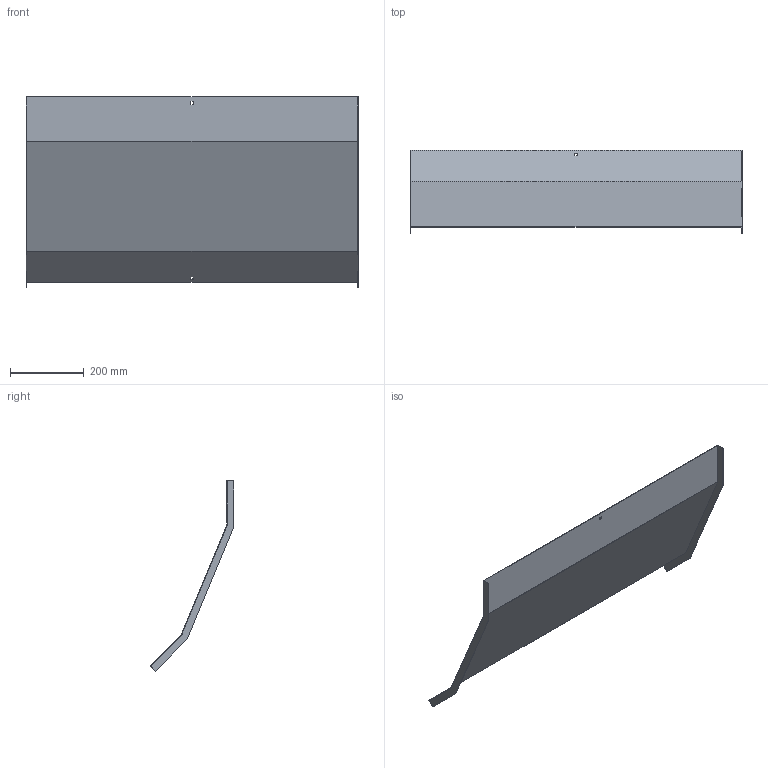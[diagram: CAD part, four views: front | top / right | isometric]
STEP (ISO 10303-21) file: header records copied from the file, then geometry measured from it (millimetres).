
FILE_DESCRIPTION (( 'STEP AP214' ), '1' );
FILE_NAME ('31N5R900_H150.step', '2025-02-21T14:28:57', ( '' ), ( '' ), 'SwSTEP 2.0', 'SolidWorks 2023', '' );
FILE_SCHEMA (( 'AUTOMOTIVE_DESIGN' ));
Length unit declared in the file: millimetre
Products named in the file (1): 31N5R900_H150
Bounding box: 903 x 228.46 x 517.41 mm (x, y, z)
Volume: 794937.5 mm3; surface area: 1064564.6 mm2
Topology: 1 solids, 1 shells, 26 faces, 72 edges, 48 vertices
Faces by surface type: plane 26
Entity records: 847 total; most frequent: CARTESIAN_POINT 147, ORIENTED_EDGE 144, DIRECTION 126, LINE 72, EDGE_CURVE 72, VECTOR 72, VERTEX_POINT 48, EDGE_LOOP 30
